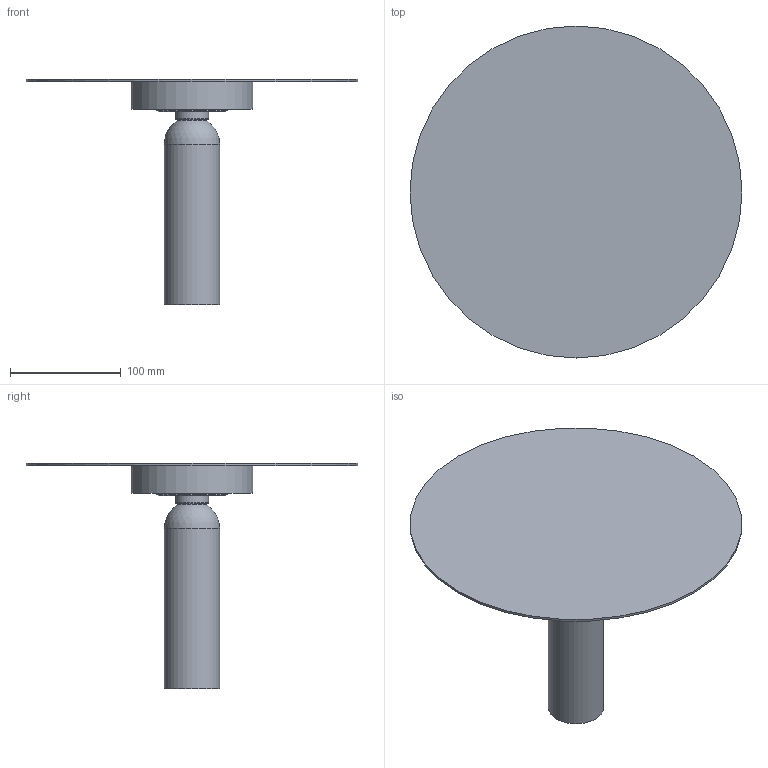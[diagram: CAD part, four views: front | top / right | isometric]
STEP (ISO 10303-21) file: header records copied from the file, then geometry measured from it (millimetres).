
FILE_DESCRIPTION(/* description */ (''),/* implementation_level */ '2;1');
FILE_NAME(/* name */ 'VIS A VIS.stp',/* time_stamp */ '2023-10-02T10:04:07+02:00',/* author */ ('n.bisotti'),/* organization */ (''),/* preprocessor_version */ 'ST-DEVELOPER v19.2',/* originating_system */ 'Autodesk Inventor 2023',/* authorisation */ '');
FILE_SCHEMA (('AUTOMOTIVE_DESIGN { 1 0 10303 214 3 1 1 }'));
Length unit declared in the file: centimetre
Products named in the file (1): Parte1
Bounding box: 300 x 300 x 203.7 mm (x, y, z)
Volume: 631501.7 mm3; surface area: 232616.4 mm2
Topology: 7 solids, 7 shells, 61 faces, 111 edges, 72 vertices
Faces by surface type: plane 24, cylinder 23, cone 10, torus 3, sphere 1
Full cylindrical faces by diameter (mm): 2.459 x4, 6 x2, 8 x1, 8.5 x1, 20.4 x1, 23.5 x1, 25.5 x1, 26 x1, 26.5 x1, 28.5 x1, 30 x1, 50 x1, 59.25 x1, 104.5 x1, 105 x1, 110 x1, 300 x1
Entity records: 1655 total; most frequent: DIRECTION 303, CARTESIAN_POINT 241, ORIENTED_EDGE 214, AXIS2_PLACEMENT_3D 134, EDGE_CURVE 107, EDGE_LOOP 73, CIRCLE 72, VERTEX_POINT 72
